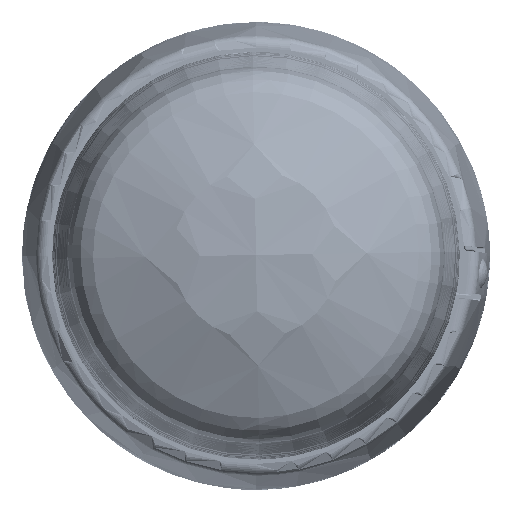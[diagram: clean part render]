
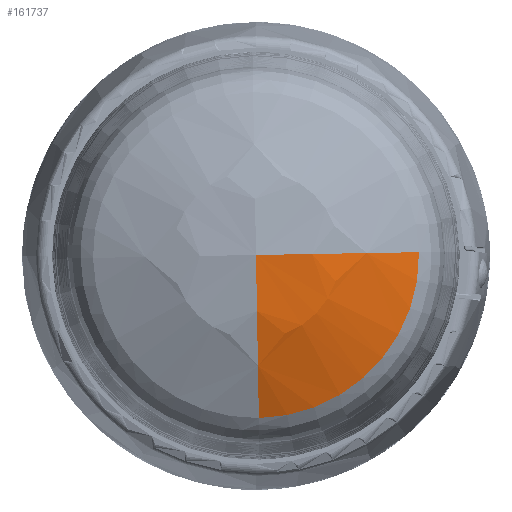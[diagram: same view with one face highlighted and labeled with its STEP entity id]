
A CAD part, top view. The second image highlights one B-rep face of the part: STEP entity #161737.
In plain terms, the highlighted spherical face has radius 120 mm.
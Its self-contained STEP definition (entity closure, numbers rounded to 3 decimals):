
#161649=AXIS2_PLACEMENT_3D('Circle Axis2P3D',#161647,#161648,$) ;
#161706=AXIS2_PLACEMENT_3D('Circle Axis2P3D',#161704,#161705,$) ;
#161725=AXIS2_PLACEMENT_3D('Sphere Axis2P3D',#161722,#161723,#161724) ;
#161729=AXIS2_PLACEMENT_3D('Circle Axis2P3D',#161727,#161728,$) ;
#161644=CARTESIAN_POINT('Vertex',(53.989,0.942,133.385)) ;
#161647=CARTESIAN_POINT('Axis2P3D Location',(0.,0.,133.385)) ;
#161651=CARTESIAN_POINT('Vertex',(0.942,-53.989,133.385)) ;
#161704=CARTESIAN_POINT('Axis2P3D Location',(0.,0.,26.22)) ;
#161708=CARTESIAN_POINT('Vertex',(0.,0.,146.22)) ;
#161722=CARTESIAN_POINT('Axis2P3D Location',(0.,0.,26.22)) ;
#161727=CARTESIAN_POINT('Axis2P3D Location',(0.,0.,26.22)) ;
#161648=DIRECTION('Axis2P3D Direction',(-0.,0.,1.)) ;
#161705=DIRECTION('Axis2P3D Direction',(0.017,-1.,0.)) ;
#161723=DIRECTION('Axis2P3D Direction',(-0.,0.,1.)) ;
#161724=DIRECTION('Axis2P3D XDirection',(0.017,-1.,0.)) ;
#161728=DIRECTION('Axis2P3D Direction',(-1.,-0.017,0.)) ;
#161733=ORIENTED_EDGE('',*,*,#161710,.T.) ;
#161734=ORIENTED_EDGE('',*,*,#161731,.T.) ;
#161735=ORIENTED_EDGE('',*,*,#161653,.F.) ;
#161737=ADVANCED_FACE('46\\MANIFOLD_SOLID_BREP #152935',(#161736),#161726,.T.) ;
#161650=CIRCLE('generated circle',#161649,53.997) ;
#161707=CIRCLE('generated circle',#161706,120.) ;
#161730=CIRCLE('generated circle',#161729,120.) ;
#161653=EDGE_CURVE('',#161645,#161652,#161650,.F.) ;
#161710=EDGE_CURVE('',#161645,#161709,#161707,.T.) ;
#161731=EDGE_CURVE('',#161709,#161652,#161730,.F.) ;
#161732=EDGE_LOOP('',(#161733,#161734,#161735)) ;
#161736=FACE_OUTER_BOUND('',#161732,.T.) ;
#161726=SPHERICAL_SURFACE('',#161725,120.) ;
#161645=VERTEX_POINT('',#161644) ;
#161652=VERTEX_POINT('',#161651) ;
#161709=VERTEX_POINT('',#161708) ;
